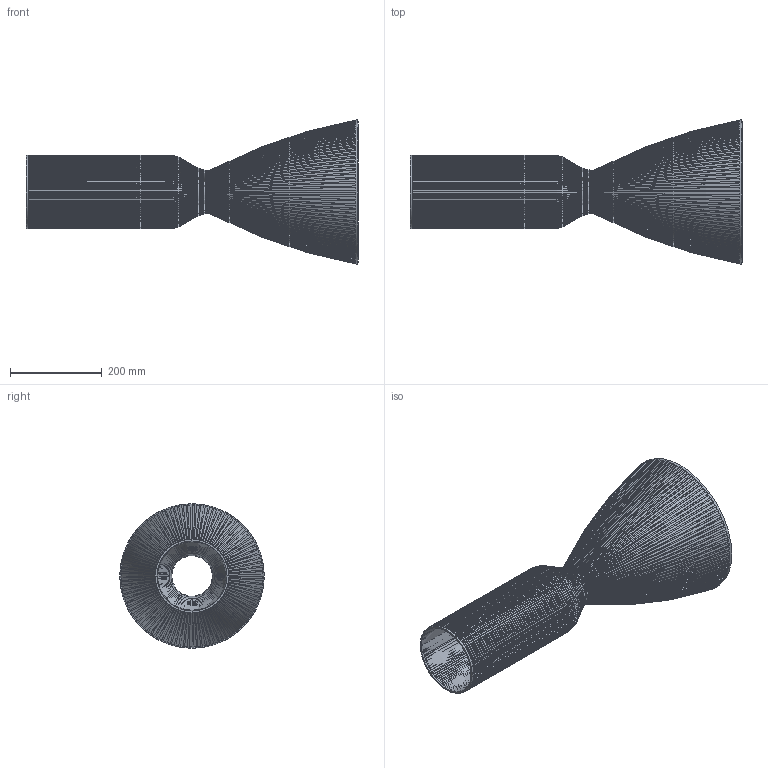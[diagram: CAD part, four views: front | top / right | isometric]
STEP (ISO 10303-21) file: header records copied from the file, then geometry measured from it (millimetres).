
FILE_DESCRIPTION(('Open CASCADE Model'),'2;1');
FILE_NAME('Open CASCADE Shape Model','2026-11-17T23:00:21',('Author'),( 'Open CASCADE'),'Open CASCADE STEP processor 7.9','Open CASCADE 7.9' ,'Unknown');
FILE_SCHEMA(('AUTOMOTIVE_DESIGN { 1 0 10303 214 1 1 1 1 }'));
Products named in the file (1): Open CASCADE STEP translator 7.9 1
Bounding box: 722.44 x 314.66 x 314.66 mm (x, y, z)
Volume: 1004903.9 mm3; surface area: 1214799.4 mm2
Topology: 1 solids, 1 shells, 504 faces, 1208 edges, 804 vertices
Faces by surface type: plane 301, revolution 102, cone 101
Entity records: 278352 total; most frequent: CARTESIAN_POINT 256267, DIRECTION 3134, ORIENTED_EDGE 2416, PCURVE 2416, DEFINITIONAL_REPRESENTATION 2416, LINE 1716, VECTOR 1716, B_SPLINE_CURVE_WITH_KNOTS 1704
